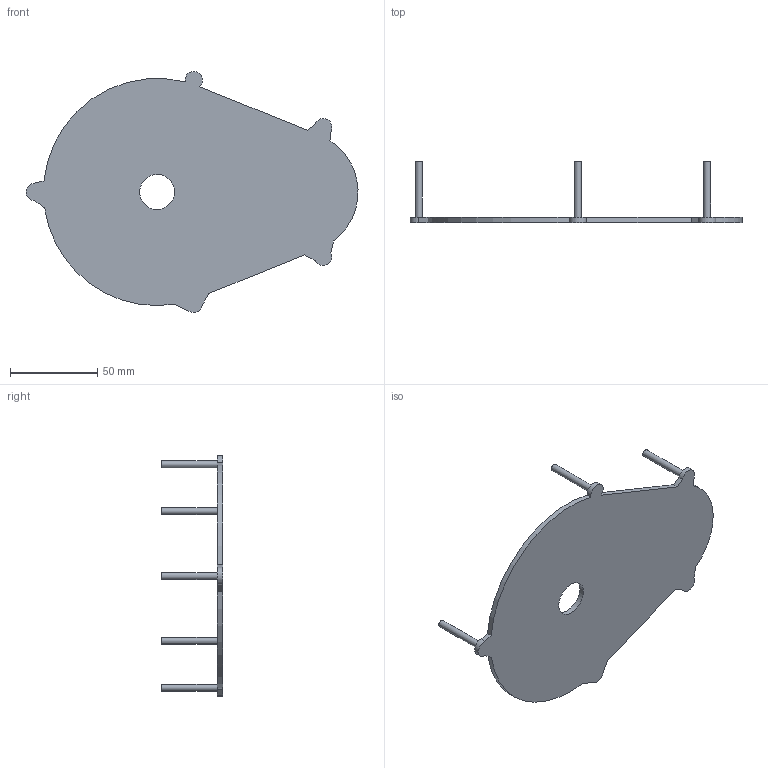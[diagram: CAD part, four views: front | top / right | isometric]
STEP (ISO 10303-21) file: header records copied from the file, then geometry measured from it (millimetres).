
FILE_DESCRIPTION(('STEP AP242'), '1');
FILE_NAME('Êðûøêà', '', ('UNSPECIFIED'), ('UNSPECIFIED'), 'C3D Converter', 'C3D Toolkit', '');
FILE_SCHEMA(('AP242_MANAGED_MODEL_BASED_3D_ENGINEERING_MIM_LF { 1 0 10303 442 1 1 4 }'));
Length unit declared in the file: millimetre
Bounding box: 189.98 x 35 x 137.84 mm (x, y, z)
Volume: 53849.2 mm3; surface area: 38379.8 mm2
Topology: 1 solids, 1 shells, 31 faces, 72 edges, 48 vertices
Faces by surface type: plane 17, cylinder 14
Full cylindrical faces by diameter (mm): 4 x5, 20 x1
Entity records: 908 total; most frequent: DIRECTION 158, CARTESIAN_POINT 146, ORIENTED_EDGE 132, EDGE_CURVE 66, AXIS2_PLACEMENT_3D 60, VERTEX_POINT 48, EDGE_LOOP 44, LINE 38
